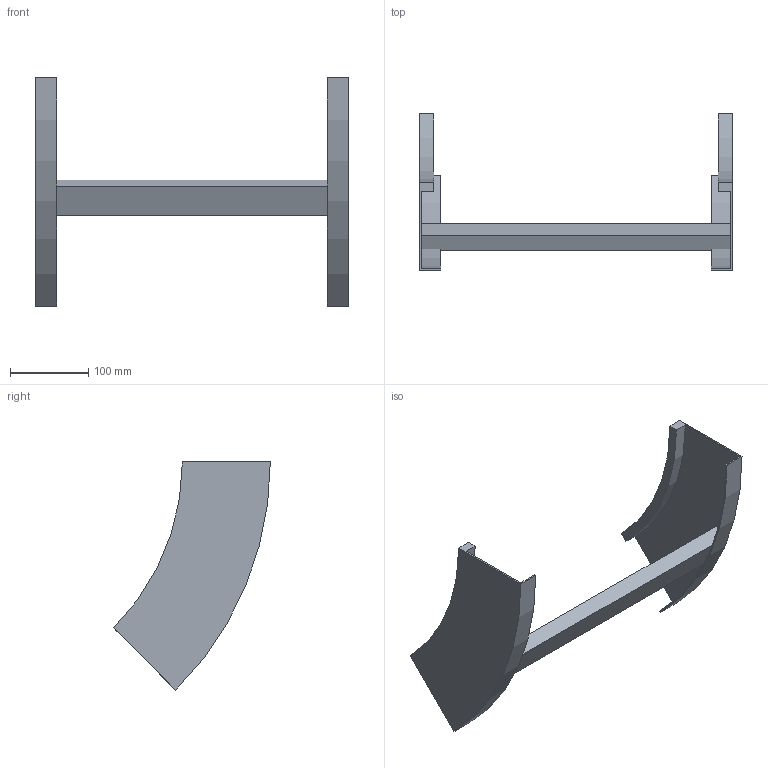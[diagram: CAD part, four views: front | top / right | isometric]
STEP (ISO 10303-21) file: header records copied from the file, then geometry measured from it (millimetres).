
FILE_DESCRIPTION (( 'STEP AP214' ), '1' );
FILE_NAME ('B2X31B3J400XX.step', '2025-03-20T10:07:49', ( '' ), ( '' ), 'SwSTEP 2.0', 'SolidWorks 2023', '' );
FILE_SCHEMA (( 'AUTOMOTIVE_DESIGN' ));
Length unit declared in the file: millimetre
Products named in the file (3): TRAVERSINO_400; B2_LONGH.SALITA_45°_H112.5_R300; B2X31B3J400XX
Assembly tree (3 placements, depth 2):
  B2X31B3J400XX
    B2_LONGH.SALITA_45°_H112.5_R300  x2
    TRAVERSINO_400
Bounding box: 400 x 200.37 x 291.68 mm (x, y, z)
Volume: 571275.7 mm3; surface area: 227251.9 mm2
Topology: 3 solids, 3 shells, 26 faces, 60 edges, 40 vertices
Faces by surface type: plane 18, cylinder 8
Entity records: 544 total; most frequent: DIRECTION 88, CARTESIAN_POINT 82, ORIENTED_EDGE 72, EDGE_CURVE 36, AXIS2_PLACEMENT_3D 30, LINE 28, VECTOR 28, VERTEX_POINT 24
